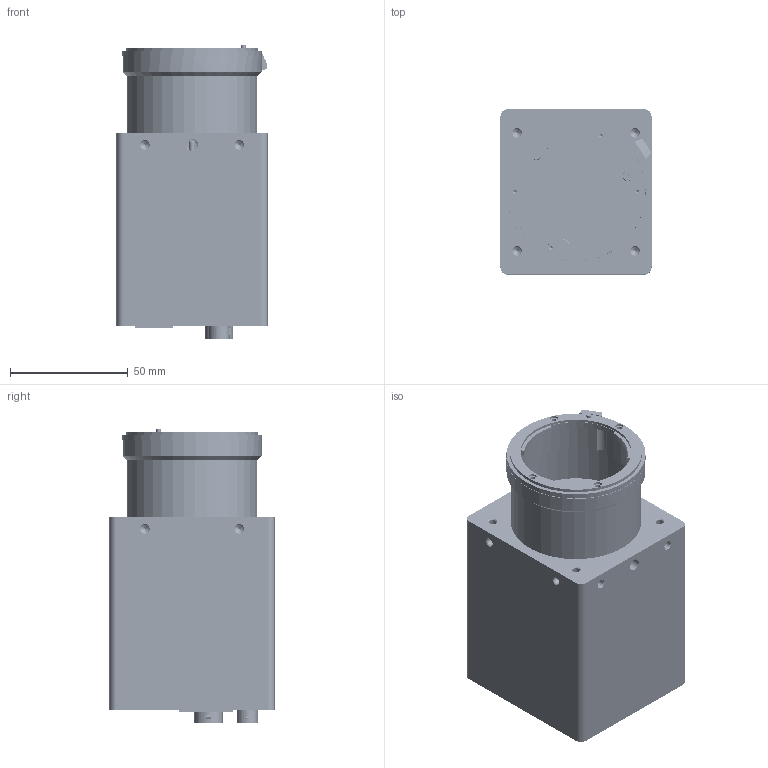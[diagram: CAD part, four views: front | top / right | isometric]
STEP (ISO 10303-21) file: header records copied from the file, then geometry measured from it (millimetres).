
FILE_DESCRIPTION (( 'STEP AP214' ), '1' );
FILE_NAME ('SU2025GIG.STEP', '2019-04-09T06:38:18', ( '' ), ( '' ), 'SwSTEP 2.0', 'SolidWorks 2016', '' );
FILE_SCHEMA (( 'AUTOMOTIVE_DESIGN' ));
Length unit declared in the file: millimetre
Products named in the file (46): C5-5078-00-44_12／六角スペーサ_2.6SQ-12; コネクタ^C5-5094-00-43_6／コネクタ_HR10G-7R-6PB; C4-1000-05-37／リアカバー; C5-1040-01-37／電源フィルタ基板_PCB-SU2025-GIG-PF-01#F; 基板^C5-1048-01-36／メイン基板_PCB-SU2025-M-00#F; C4-1001-02-37／胴体カバー; C5-5078-00-44_7／六角スペーサ_2.6SQ-7; 菊座^C5-5094-00-43_6／コネクタ_HR10G-7R-6PB; コネクタ^C5-5180-00-43_12／コネクタ_HR10G-10R-12PB; C5-5173-00-43／ﾊﾟﾙｽﾄﾗﾝｽ内蔵RJ45ｺﾈｸﾀ_V890-1AX1-A1; C5-1048-01-36／メイン基板_PCB-SU2025-M-00#F; C5-5012-00-40_10／座付きなべ頭小ねじ（P=4) M2.6X10 SUS_CSPPNZP-SUS-M2.6-10; C5-5094-00-43_6／コネクタ_HR10G-7R-6PB; C5-5091-00-43_10／コネクタ_DF11-10DP-2DS; 14-87-422-41-117101; C5-5175-00-43_2／ピッチコネクタ_FX8C-100P-SV2; C5-5082-00-44_4.5／表面実装スペーサ_2.6SSB-4.5; ATMELマウント本体筒; C5-1044-02-41／電源基板_PCB-SU2025-GIG-PW-02#F; C5-5012-00-40_06／座付きなべ頭小ねじ（P=4) M2.6X06 SUS_CSPPNZP-SUS-M2.6-6; ナット^C5-5180-00-43_12／コネクタ_HR10G-10R-12PB; TCD1209DG; 基板^C5-1040-01-37／電源フィルタ基板_PCB-SU2025-GIG-PF-01#F; C5-5099-00-43／発光ダイオード_SPR-39MVWF; ナット^C5-5094-00-43_6／コネクタ_HR10G-7R-6PB; C4-1067-02-37／放熱ブロック; C5-5134-00-43／2.5mm基板-電線用ｺﾈｸﾀ(ｽﾄﾚｰﾄ)_IL-G-2P-S3T2-SA; C5-5171-00-43_5／ピッチコネクタ_FX8C-100S-SV5; 基板^C5-1046-03-36／センサ基板_PCB-SU2025-S-01#F; 基板^C5-1064-04-36／インタフェース基板_PCB-SU2025-GIG-IF-02#F; C5-5029-00-40_06／六角穴付ボルト M2.6X06 SUS_SCB2.6-6; 基板^C5-1044-02-41／電源基板_PCB-SU2025-GIG-PW-02#F; C5-5231-00-43／0.5mmﾋﾟｯﾁFFC用ｺﾈｸﾀ_FH12-50S-0.5SV; C5-5180-00-43_12／コネクタ_HR10G-10R-12PB; C5-1064-04-36／インタフェース基板_PCB-SU2025-GIG-IF-02#F; C5-5081-00-44／コネクタ_DF11-8DS-2DSA; SU2025GIG; C5-5042-00-43／ﾋﾟﾝ・ｻﾗ6-ﾛﾌﾞﾎﾞﾙﾄ_M2.6X6(SUS); CZA07011／アトメルマウント; C4-1074-02-37／フロントパネル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
Assembly tree (74 placements, depth 3):
  SU2025GIG
    C4-1000-05-37／リアカバー
    C4-1001-02-37／胴体カバー
    C4-1067-02-37／放熱ブロック
    C4-1074-02-37／フロントパネル
    C5-5094-00-43_6／コネクタ_HR10G-7R-6PB
      コネクタ^C5-5094-00-43_6／コネクタ_HR10G-7R-6PB
      菊座^C5-5094-00-43_6／コネクタ_HR10G-7R-6PB
      ナット^C5-5094-00-43_6／コネクタ_HR10G-7R-6PB
    C5-5180-00-43_12／コネクタ_HR10G-10R-12PB
      コネクタ^C5-5180-00-43_12／コネクタ_HR10G-10R-12PB
      菊座^C5-5180-00-43_12／コネクタ_HR10G-10R-12PB
      ナット^C5-5180-00-43_12／コネクタ_HR10G-10R-12PB
    CZA07011／アトメルマウント
      ATMELマウント本体筒
      Fマウント
    TCD1209DG
    C5-1040-01-37／電源フィルタ基板_PCB-SU2025-GIG-PF-01#F
      基板^C5-1040-01-37／電源フィルタ基板_PCB-SU2025-GIG-PF-01#F
      C5-5081-00-44／コネクタ_DF11-8DS-2DSA
      C5-5082-00-44_4.5／表面実装スペーサ_2.6SSB-4.5
    C5-1064-04-36／インタフェース基板_PCB-SU2025-GIG-IF-02#F
      基板^C5-1064-04-36／インタフェース基板_PCB-SU2025-GIG-IF-02#F
      C5-5091-00-43_10／コネクタ_DF11-10DP-2DS
      C5-5173-00-43／ﾊﾟﾙｽﾄﾗﾝｽ内蔵RJ45ｺﾈｸﾀ_V890-1AX1-A1
      C5-5138-00-43_11／LED用スペーサー_LM-11
      C5-5099-00-43／発光ダイオード_SPR-39MVWF
      C5-5171-00-43_5／ピッチコネクタ_FX8C-100S-SV5
    C5-1044-02-41／電源基板_PCB-SU2025-GIG-PW-02#F
      基板^C5-1044-02-41／電源基板_PCB-SU2025-GIG-PW-02#F
      C5-5171-00-43_5／ピッチコネクタ_FX8C-100S-SV5
      C5-5175-00-43_2／ピッチコネクタ_FX8C-100P-SV2
      C5-5134-00-43／2.5mm基板-電線用ｺﾈｸﾀ(ｽﾄﾚｰﾄ)_IL-G-2P-S3T2-SA
    C5-1048-01-36／メイン基板_PCB-SU2025-M-00#F
      基板^C5-1048-01-36／メイン基板_PCB-SU2025-M-00#F
      C5-5231-00-43／0.5mmﾋﾟｯﾁFFC用ｺﾈｸﾀ_FH12-50S-0.5SV
      C5-5175-00-43_2／ピッチコネクタ_FX8C-100P-SV2
      C5-5091-00-43_10／コネクタ_DF11-10DP-2DS
    C5-1046-03-36／センサ基板_PCB-SU2025-S-01#F
      基板^C5-1046-03-36／センサ基板_PCB-SU2025-S-01#F
      14-87-422-41-117101
      C5-5231-00-43／0.5mmﾋﾟｯﾁFFC用ｺﾈｸﾀ_FH12-50S-0.5SV
    C5-5078-00-44_7／六角スペーサ_2.6SQ-7  x3
    C5-5078-00-44_12／六角スペーサ_2.6SQ-12  x8
    C5-5078-00-44_13／六角スペーサ_2.6SQ-13  x4
    C5-5078-00-44_25／六角スペーサ_2.6SQ-25  x4
    C5-5029-00-40_06／六角穴付ボルト M2.6X06 SUS_SCB2.6-6  x3
    C5-5012-00-40_06／座付きなべ頭小ねじ（P=4) M2.6X06 SUS_CSPPNZP-SUS-M2.6-6  x2
    C5-5012-00-40_10／座付きなべ頭小ねじ（P=4) M2.6X10 SUS_CSPPNZP-SUS-M2.6-10
    C5-5042-00-43／ﾋﾟﾝ・ｻﾗ6-ﾛﾌﾞﾎﾞﾙﾄ_M2.6X6(SUS)  x8
Bounding box: 64 x 70 x 124.39 mm (x, y, z)
Volume: 148031 mm3; surface area: 145414.3 mm2
Topology: 85 solids, 91 shells, 12893 faces, 34857 edges, 22950 vertices
Faces by surface type: plane 9859, cylinder 2013, bspline 571, cone 410, torus 38, sphere 2
Full cylindrical faces by diameter (mm): 0.19 x1, 0.4 x15, 0.5 x6, 0.56 x22, 0.6 x4, 0.76 x22, 0.8 x2, 0.89 x10, 0.9 x4, 0.95 x2, 1 x30, 1.1 x22, 1.18 x22, 1.46 x22, 1.5 x2, 1.6 x6, 2 x24, 2.2 x40, 2.288 x3, 2.6 x38, 2.8 x3, 3 x15, 3.1 x1, 3.2 x1, 3.25 x2, 3.3 x12, 3.5 x5, 3.8 x1, 4.5 x7, 4.8 x2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
Entity records: 286749 total; most frequent: CARTESIAN_POINT 70719, ORIENTED_EDGE 41616, DIRECTION 36792, EDGE_CURVE 20808, VECTOR 16356, LINE 16356, VERTEX_POINT 14089, AXIS2_PLACEMENT_3D 10218
